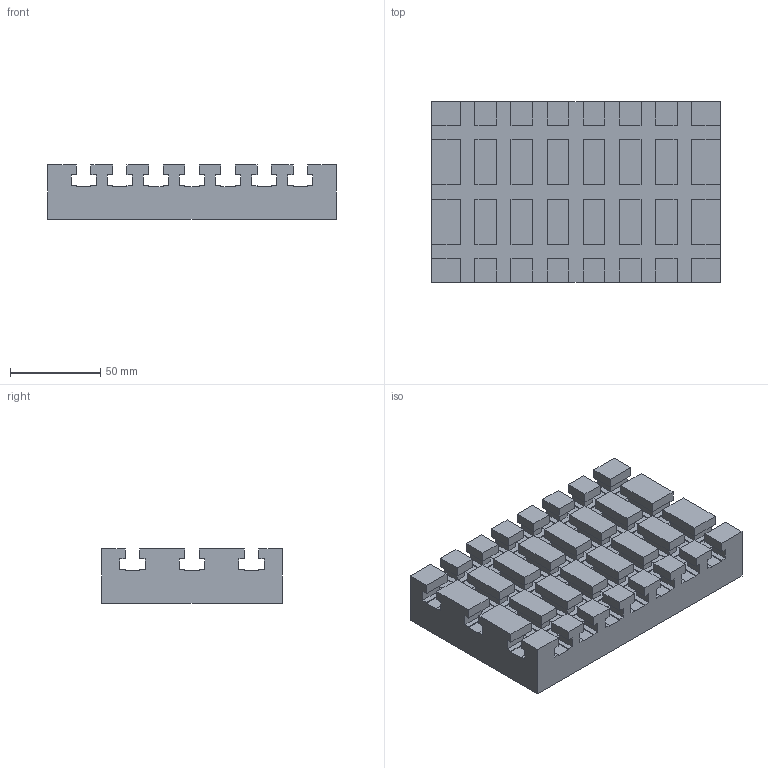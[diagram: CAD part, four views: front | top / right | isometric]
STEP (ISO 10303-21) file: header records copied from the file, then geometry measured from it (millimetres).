
FILE_DESCRIPTION (( 'STEP AP203' ), '1' );
FILE_NAME ('Session-22.STEP', '2025-12-08T08:58:58', ( '' ), ( '' ), 'SwSTEP 2.0', 'SolidWorks 2024', '' );
FILE_SCHEMA (( 'CONFIG_CONTROL_DESIGN' ));
Length unit declared in the file: millimetre
Products named in the file (1): Session-22
Bounding box: 160 x 100 x 30 mm (x, y, z)
Volume: 357000 mm3; surface area: 70808 mm2
Topology: 1 solids, 1 shells, 414 faces, 1128 edges, 752 vertices
Faces by surface type: plane 414
Entity records: 12869 total; most frequent: CARTESIAN_POINT 2295, ORIENTED_EDGE 2256, DIRECTION 1958, LINE 1128, EDGE_CURVE 1128, VECTOR 1128, VERTEX_POINT 752, EDGE_LOOP 450
